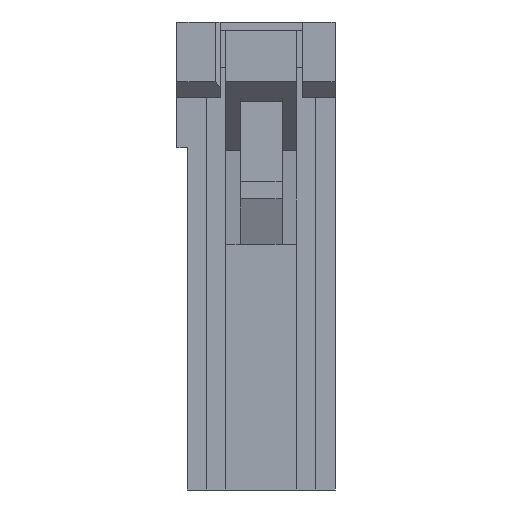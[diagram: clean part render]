
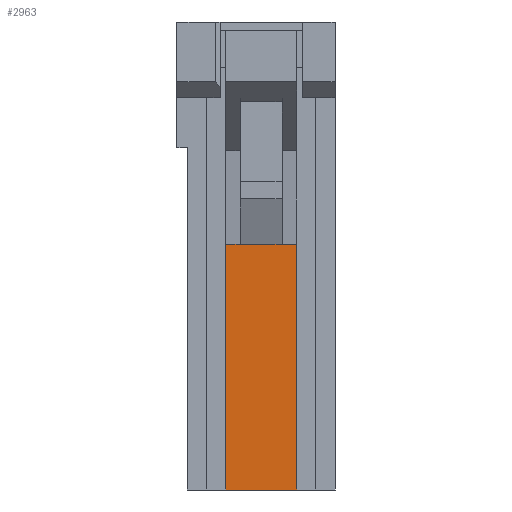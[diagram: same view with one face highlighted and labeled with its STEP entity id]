
A CAD part, left-side view. The second image highlights one B-rep face of the part: STEP entity #2963.
In plain terms, the highlighted planar face has unit normal (-1, 0, -0.021).
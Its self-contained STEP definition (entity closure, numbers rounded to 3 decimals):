
#60 = VECTOR ( 'NONE', #4448, 1000. ) ;
#392 = AXIS2_PLACEMENT_3D ( 'NONE', #596, #2140, #5610 ) ;
#413 = VERTEX_POINT ( 'NONE', #6313 ) ;
#451 = VERTEX_POINT ( 'NONE', #2358 ) ;
#596 = CARTESIAN_POINT ( 'NONE',  ( -6.815, -7.27, -13.628 ) ) ;
#721 = LINE ( 'NONE', #2374, #1518 ) ;
#978 = VECTOR ( 'NONE', #3617, 1000. ) ;
#1320 = LINE ( 'NONE', #5130, #3383 ) ;
#1355 = CARTESIAN_POINT ( 'NONE',  ( -6.488, -0.49, -28.85 ) ) ;
#1421 = EDGE_LOOP ( 'NONE', ( #3155, #6112, #2632, #4138, #5074, #2457 ) ) ;
#1461 = CARTESIAN_POINT ( 'NONE',  ( -6.815, -7.27, -13.628 ) ) ;
#1518 = VECTOR ( 'NONE', #3563, 1000. ) ;
#1626 = EDGE_CURVE ( 'NONE', #2346, #451, #1320, .T. ) ;
#2006 = VERTEX_POINT ( 'NONE', #1461 ) ;
#2140 = DIRECTION ( 'NONE',  ( -1., 0., -0.021 ) ) ;
#2267 = VECTOR ( 'NONE', #5379, 1000. ) ;
#2346 = VERTEX_POINT ( 'NONE', #3013 ) ;
#2358 = CARTESIAN_POINT ( 'NONE',  ( -6.815, -2.87, -13.628 ) ) ;
#2374 = CARTESIAN_POINT ( 'NONE',  ( -6.815, -6.37, -13.628 ) ) ;
#2393 = DIRECTION ( 'NONE',  ( -0.021, 0., 1. ) ) ;
#2457 = ORIENTED_EDGE ( 'NONE', *, *, #6868, .T. ) ;
#2535 = CARTESIAN_POINT ( 'NONE',  ( -6.815, -2.87, -13.628 ) ) ;
#2589 = CARTESIAN_POINT ( 'NONE',  ( -6.488, -7.27, -28.85 ) ) ;
#2595 = VERTEX_POINT ( 'NONE', #5586 ) ;
#2632 = ORIENTED_EDGE ( 'NONE', *, *, #4935, .F. ) ;
#2963 = ADVANCED_FACE ( 'NONE', ( #3328 ), #5539, .T. ) ;
#3013 = CARTESIAN_POINT ( 'NONE',  ( -6.488, -2.87, -28.85 ) ) ;
#3155 = ORIENTED_EDGE ( 'NONE', *, *, #3779, .T. ) ;
#3328 = FACE_OUTER_BOUND ( 'NONE', #1421, .T. ) ;
#3383 = VECTOR ( 'NONE', #2393, 1000. ) ;
#3563 = DIRECTION ( 'NONE',  ( 0., 1., 0. ) ) ;
#3617 = DIRECTION ( 'NONE',  ( 0., -1., 0. ) ) ;
#3653 = LINE ( 'NONE', #2535, #2267 ) ;
#3779 = EDGE_CURVE ( 'NONE', #6034, #2006, #6078, .T. ) ;
#4138 = ORIENTED_EDGE ( 'NONE', *, *, #6759, .T. ) ;
#4341 = CARTESIAN_POINT ( 'NONE',  ( -6.815, -7.27, -13.628 ) ) ;
#4448 = DIRECTION ( 'NONE',  ( 0., -1., 0. ) ) ;
#4935 = EDGE_CURVE ( 'NONE', #2595, #413, #5490, .T. ) ;
#5074 = ORIENTED_EDGE ( 'NONE', *, *, #1626, .F. ) ;
#5130 = CARTESIAN_POINT ( 'NONE',  ( -6.815, -2.87, -13.628 ) ) ;
#5379 = DIRECTION ( 'NONE',  ( 0., 1., 0. ) ) ;
#5490 = LINE ( 'NONE', #6602, #60 ) ;
#5539 = PLANE ( 'NONE',  #392 ) ;
#5586 = CARTESIAN_POINT ( 'NONE',  ( -6.815, -3.77, -13.628 ) ) ;
#5610 = DIRECTION ( 'NONE',  ( 0., -1., 0. ) ) ;
#5718 = VECTOR ( 'NONE', #6601, 1000. ) ;
#5923 = EDGE_CURVE ( 'NONE', #2006, #413, #721, .T. ) ;
#6034 = VERTEX_POINT ( 'NONE', #2589 ) ;
#6078 = LINE ( 'NONE', #4341, #5718 ) ;
#6112 = ORIENTED_EDGE ( 'NONE', *, *, #5923, .T. ) ;
#6313 = CARTESIAN_POINT ( 'NONE',  ( -6.815, -6.37, -13.628 ) ) ;
#6420 = LINE ( 'NONE', #1355, #978 ) ;
#6601 = DIRECTION ( 'NONE',  ( -0.021, 0., 1. ) ) ;
#6602 = CARTESIAN_POINT ( 'NONE',  ( -6.815, -6.37, -13.628 ) ) ;
#6759 = EDGE_CURVE ( 'NONE', #2595, #451, #3653, .T. ) ;
#6868 = EDGE_CURVE ( 'NONE', #2346, #6034, #6420, .T. ) ;
